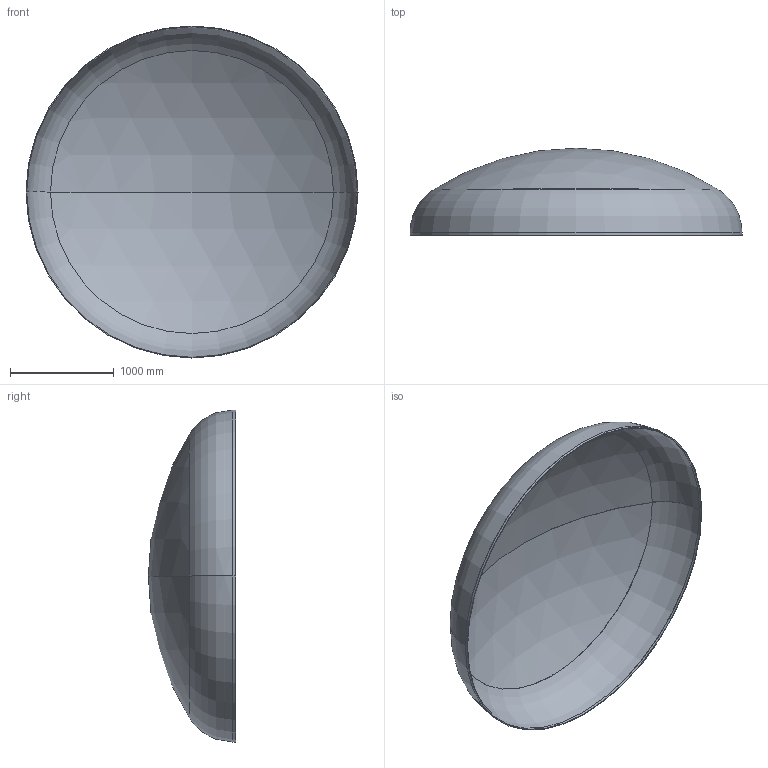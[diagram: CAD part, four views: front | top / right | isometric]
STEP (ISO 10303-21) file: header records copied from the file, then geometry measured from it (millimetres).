
FILE_DESCRIPTION (( 'STEP AP203' ), '1' );
FILE_NAME ('DIN 28013 Korbbogenform_-_Boden DIN 28013 - 3200 x 25 - I - s=7.step', '2016-07-01T18:16:05', ( '' ), ( '' ), 'SwSTEP 2.0', 'SolidWorks 2013', '' );
FILE_SCHEMA (( 'CONFIG_CONTROL_DESIGN' ));
Length unit declared in the file: millimetre
Products named in the file (1): DIN 28013 Korbbogenform_-_Boden DIN 28013 - 3200 x 25 - I - s=7
Bounding box: 3200 x 840.35 x 3200 mm (x, y, z)
Volume: 79422340.9 mm3; surface area: 22762408.4 mm2
Topology: 1 solids, 1 shells, 13 faces, 24 edges, 14 vertices
Faces by surface type: torus 4, cylinder 4, sphere 4, plane 1
Entity records: 407 total; most frequent: DIRECTION 72, CARTESIAN_POINT 52, ORIENTED_EDGE 48, AXIS2_PLACEMENT_3D 34, EDGE_CURVE 24, CIRCLE 20, EDGE_LOOP 14, VERTEX_POINT 14
